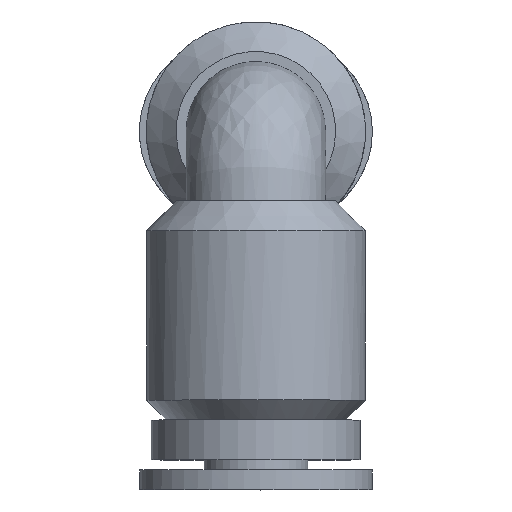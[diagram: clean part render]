
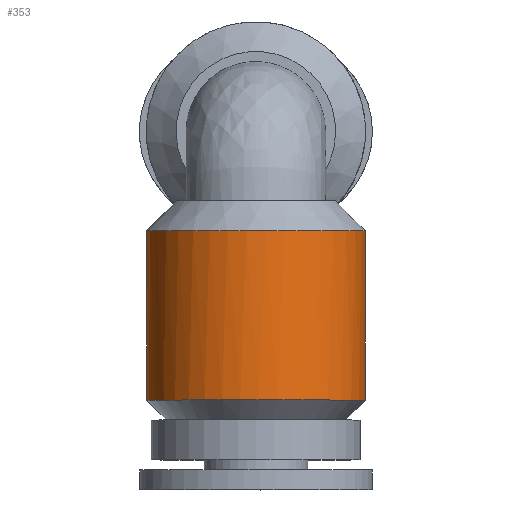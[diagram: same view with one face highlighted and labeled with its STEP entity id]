
A CAD part, top view. The second image highlights one B-rep face of the part: STEP entity #353.
In plain terms, the highlighted cylindrical face has radius 5.5 mm (diameter 11 mm), a full revolution.
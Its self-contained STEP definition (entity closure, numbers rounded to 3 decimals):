
#53=ELLIPSE('',#389,7.778,5.5);
#86=FACE_BOUND('',#148,.T.);
#110=FACE_OUTER_BOUND('',#147,.T.);
#147=EDGE_LOOP('',(#291,#292));
#148=EDGE_LOOP('',(#293));
#188=CIRCLE('',#397,5.5);
#190=CIRCLE('',#400,5.5);
#210=VERTEX_POINT('',#589);
#211=VERTEX_POINT('',#593);
#216=VERTEX_POINT('',#612);
#242=EDGE_CURVE('',#211,#210,#53,.T.);
#246=EDGE_CURVE('',#216,#216,#188,.T.);
#248=EDGE_CURVE('',#211,#210,#190,.T.);
#291=ORIENTED_EDGE('',*,*,#242,.T.);
#292=ORIENTED_EDGE('',*,*,#248,.F.);
#293=ORIENTED_EDGE('',*,*,#246,.F.);
#336=CYLINDRICAL_SURFACE('',#399,5.5);
#353=ADVANCED_FACE('',(#110,#86),#336,.T.);
#389=AXIS2_PLACEMENT_3D('',#601,#471,#472);
#397=AXIS2_PLACEMENT_3D('',#613,#487,#488);
#399=AXIS2_PLACEMENT_3D('',#616,#491,#492);
#400=AXIS2_PLACEMENT_3D('',#617,#493,#494);
#471=DIRECTION('center_axis',(0.,-0.707,0.707));
#472=DIRECTION('ref_axis',(0.,-0.707,-0.707));
#487=DIRECTION('center_axis',(0.,-1.,0.));
#488=DIRECTION('ref_axis',(-1.,0.,0.));
#491=DIRECTION('center_axis',(0.,-1.,0.));
#492=DIRECTION('ref_axis',(-1.,0.,0.));
#493=DIRECTION('center_axis',(0.,1.,0.));
#494=DIRECTION('ref_axis',(-1.,0.,0.));
#589=CARTESIAN_POINT('',(2.291,-5.,-5.));
#593=CARTESIAN_POINT('',(-2.291,-5.,-5.));
#601=CARTESIAN_POINT('Origin',(0.,0.,0.));
#612=CARTESIAN_POINT('',(5.5,-13.5,0.));
#613=CARTESIAN_POINT('Origin',(0.,-13.5,0.));
#616=CARTESIAN_POINT('Origin',(0.,-3.5,0.));
#617=CARTESIAN_POINT('Origin',(0.,-5.,0.));
